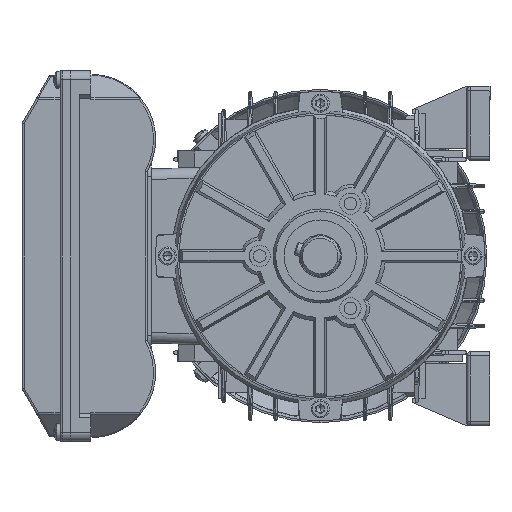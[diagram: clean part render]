
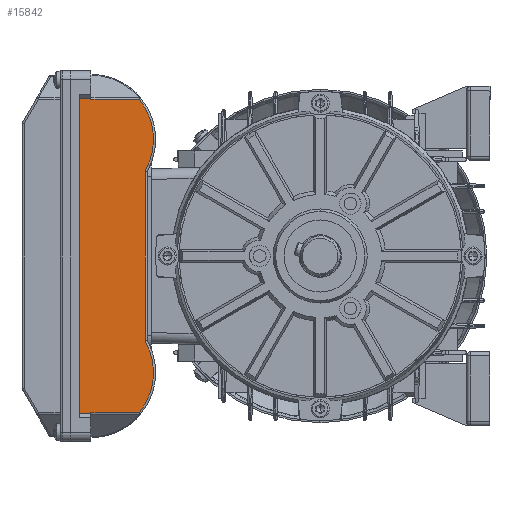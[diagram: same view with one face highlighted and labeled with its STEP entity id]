
A CAD part, left-side view. The second image highlights one B-rep face of the part: STEP entity #15842.
In plain terms, the highlighted planar face has unit normal (-1, 0, 0) as drawn and (0, 0, 1) by its records, which use the part's own axes.
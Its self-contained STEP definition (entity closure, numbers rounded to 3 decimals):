
#4770 = ORIENTED_EDGE ( 'NONE', *, *, #86289, .T. ) ;
#8536 = CARTESIAN_POINT ( 'NONE',  ( 14.314, 34.5, 140. ) ) ;
#8932 = DIRECTION ( 'NONE',  ( 1., 0., 0. ) ) ;
#8940 = VERTEX_POINT ( 'NONE', #93681 ) ;
#9839 = CARTESIAN_POINT ( 'NONE',  ( 162.686, 34.5, 140. ) ) ;
#10565 = EDGE_CURVE ( 'NONE', #19222, #49795, #102182, .T. ) ;
#13894 = CARTESIAN_POINT ( 'NONE',  ( 14.314, 29., 140. ) ) ;
#14277 = VECTOR ( 'NONE', #88748, 1000. ) ;
#14981 = DIRECTION ( 'NONE',  ( 0., 0., 1. ) ) ;
#15842 = ADVANCED_FACE ( 'NONE', ( #23360 ), #91167, .T. ) ;
#16610 = CARTESIAN_POINT ( 'NONE',  ( 3., -7.5, 140. ) ) ;
#18858 = CARTESIAN_POINT ( 'NONE',  ( 14.314, 34.5, 140. ) ) ;
#19222 = VERTEX_POINT ( 'NONE', #68745 ) ;
#20758 = VERTEX_POINT ( 'NONE', #47383 ) ;
#21191 = EDGE_CURVE ( 'NONE', #8940, #36599, #28939, .T. ) ;
#22479 = ORIENTED_EDGE ( 'NONE', *, *, #35348, .T. ) ;
#22561 = VERTEX_POINT ( 'NONE', #61401 ) ;
#23201 = CARTESIAN_POINT ( 'NONE',  ( 14.704, -7.5, 140. ) ) ;
#23360 = FACE_OUTER_BOUND ( 'NONE', #119498, .T. ) ;
#28553 = ORIENTED_EDGE ( 'NONE', *, *, #49515, .T. ) ;
#28939 = LINE ( 'NONE', #8536, #75827 ) ;
#30386 = CARTESIAN_POINT ( 'NONE',  ( 48.332, 3.5, 140. ) ) ;
#30563 = VECTOR ( 'NONE', #47317, 1000. ) ;
#32205 = LINE ( 'NONE', #9839, #48268 ) ;
#35348 = EDGE_CURVE ( 'NONE', #20758, #104311, #78879, .T. ) ;
#36599 = VERTEX_POINT ( 'NONE', #65499 ) ;
#36870 = VERTEX_POINT ( 'NONE', #97707 ) ;
#37271 = VECTOR ( 'NONE', #44214, 1000. ) ;
#37579 = LINE ( 'NONE', #18858, #96195 ) ;
#37919 = CIRCLE ( 'NONE', #59599, 29.5 ) ;
#38209 = EDGE_CURVE ( 'NONE', #22561, #36870, #54818, .T. ) ;
#39369 = LINE ( 'NONE', #103429, #30563 ) ;
#42850 = DIRECTION ( 'NONE',  ( 0., 0., 1. ) ) ;
#43106 = LINE ( 'NONE', #109347, #37271 ) ;
#43862 = VERTEX_POINT ( 'NONE', #46801 ) ;
#44047 = DIRECTION ( 'NONE',  ( 1., 0., 0. ) ) ;
#44214 = DIRECTION ( 'NONE',  ( 0., 1., 0. ) ) ;
#44934 = AXIS2_PLACEMENT_3D ( 'NONE', #16610, #42850, #44047 ) ;
#46801 = CARTESIAN_POINT ( 'NONE',  ( 14.314, 29., 140. ) ) ;
#46826 = ORIENTED_EDGE ( 'NONE', *, *, #66605, .F. ) ;
#46934 = AXIS2_PLACEMENT_3D ( 'NONE', #77546, #105752, #48856 ) ;
#47317 = DIRECTION ( 'NONE',  ( 1., 0., 0. ) ) ;
#47383 = CARTESIAN_POINT ( 'NONE',  ( 162.296, 29., 140. ) ) ;
#47493 = DIRECTION ( 'NONE',  ( 0., -1., 0. ) ) ;
#48268 = VECTOR ( 'NONE', #47493, 1000. ) ;
#48856 = DIRECTION ( 'NONE',  ( 1., 0., 0. ) ) ;
#49515 = EDGE_CURVE ( 'NONE', #49795, #75555, #37919, .T. ) ;
#49795 = VERTEX_POINT ( 'NONE', #87373 ) ;
#53867 = DIRECTION ( 'NONE',  ( 1., 0., 0. ) ) ;
#54818 = CIRCLE ( 'NONE', #46934, 29.5 ) ;
#55023 = ORIENTED_EDGE ( 'NONE', *, *, #10565, .T. ) ;
#55793 = DIRECTION ( 'NONE',  ( 0., -1., 0. ) ) ;
#58446 = EDGE_CURVE ( 'NONE', #8940, #43862, #37579, .T. ) ;
#59599 = AXIS2_PLACEMENT_3D ( 'NONE', #109983, #14981, #53867 ) ;
#59848 = VECTOR ( 'NONE', #79464, 1000. ) ;
#60486 = EDGE_CURVE ( 'NONE', #75555, #22561, #71060, .T. ) ;
#61401 = CARTESIAN_POINT ( 'NONE',  ( 128.668, 3.5, 140. ) ) ;
#65499 = CARTESIAN_POINT ( 'NONE',  ( 162.686, 34.5, 140. ) ) ;
#66605 = EDGE_CURVE ( 'NONE', #36599, #104311, #32205, .T. ) ;
#68115 = ORIENTED_EDGE ( 'NONE', *, *, #21191, .F. ) ;
#68745 = CARTESIAN_POINT ( 'NONE',  ( 14.704, 29., 140. ) ) ;
#69779 = ORIENTED_EDGE ( 'NONE', *, *, #75066, .T. ) ;
#71060 = LINE ( 'NONE', #98296, #113383 ) ;
#73827 = ORIENTED_EDGE ( 'NONE', *, *, #58446, .T. ) ;
#75066 = EDGE_CURVE ( 'NONE', #43862, #19222, #39369, .T. ) ;
#75555 = VERTEX_POINT ( 'NONE', #30386 ) ;
#75827 = VECTOR ( 'NONE', #8932, 1000. ) ;
#77546 = CARTESIAN_POINT ( 'NONE',  ( 143.5, 29., 140. ) ) ;
#78879 = LINE ( 'NONE', #13894, #59848 ) ;
#79464 = DIRECTION ( 'NONE',  ( 1., 0., 0. ) ) ;
#86289 = EDGE_CURVE ( 'NONE', #36870, #20758, #43106, .T. ) ;
#87373 = CARTESIAN_POINT ( 'NONE',  ( 14.704, 6.263, 140. ) ) ;
#88438 = ORIENTED_EDGE ( 'NONE', *, *, #60486, .T. ) ;
#88748 = DIRECTION ( 'NONE',  ( 0., -1., 0. ) ) ;
#89010 = CARTESIAN_POINT ( 'NONE',  ( 162.686, 29., 140. ) ) ;
#90347 = ORIENTED_EDGE ( 'NONE', *, *, #38209, .T. ) ;
#91167 = PLANE ( 'NONE',  #44934 ) ;
#93681 = CARTESIAN_POINT ( 'NONE',  ( 14.314, 34.5, 140. ) ) ;
#96195 = VECTOR ( 'NONE', #55793, 1000. ) ;
#97707 = CARTESIAN_POINT ( 'NONE',  ( 162.296, 6.263, 140. ) ) ;
#98296 = CARTESIAN_POINT ( 'NONE',  ( 128.4, 3.5, 140. ) ) ;
#102182 = LINE ( 'NONE', #23201, #14277 ) ;
#103429 = CARTESIAN_POINT ( 'NONE',  ( 14.314, 29., 140. ) ) ;
#104311 = VERTEX_POINT ( 'NONE', #89010 ) ;
#105752 = DIRECTION ( 'NONE',  ( 0., 0., 1. ) ) ;
#109347 = CARTESIAN_POINT ( 'NONE',  ( 162.296, -7.5, 140. ) ) ;
#109983 = CARTESIAN_POINT ( 'NONE',  ( 33.5, 29., 140. ) ) ;
#113383 = VECTOR ( 'NONE', #117160, 1000. ) ;
#117160 = DIRECTION ( 'NONE',  ( 1., 0., 0. ) ) ;
#119498 = EDGE_LOOP ( 'NONE', ( #90347, #4770, #22479, #46826, #68115, #73827, #69779, #55023, #28553, #88438 ) ) ;
